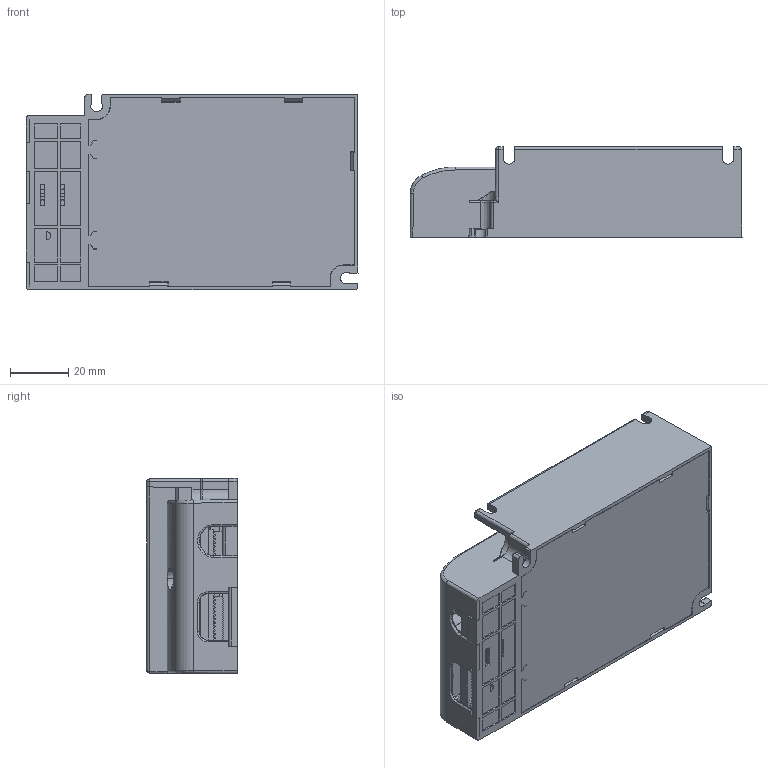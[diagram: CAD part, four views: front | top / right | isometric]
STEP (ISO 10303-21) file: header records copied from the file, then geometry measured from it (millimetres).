
FILE_DESCRIPTION(('Creo Elements/Direct Modeling STEP Export'),'2;1');
FILE_NAME('EBB21.stp','2021-08-02T 7:00:42',(''),(''),'PTC Creo Elements/Direct Modeling STEP processor for AP214 (Solid Model)','PTC Creo Elements/Direct Modeling 19.0E 27-Jun-2016 (C) Parametric Technology GmbH','');
FILE_SCHEMA(('AUTOMOTIVE_DESIGN { 1 0 10303 214 1 1 1 1 }'));
Length unit declared in the file: millimetre
Products named in the file (3): cord_grip; Casing; Kxy
Assembly tree (2 placements, depth 2):
  Kxy
    Casing
    cord_grip
Bounding box: 113.7 x 31 x 67 mm (x, y, z)
Surface area: 92125.7 mm2
Topology: 1 solids, 16 shells, 3241 faces, 9116 edges, 5927 vertices
Faces by surface type: plane 2380, cylinder 573, torus 132, cone 72, sphere 47, bspline 37
Entity records: 125813 total; most frequent: CARTESIAN_POINT 22749, ORIENTED_EDGE 18078, DIRECTION 15633, EDGE_CURVE 9047, VECTOR 7117, LINE 7117, VERTEX_POINT 5915, AXIS2_PLACEMENT_3D 4258
